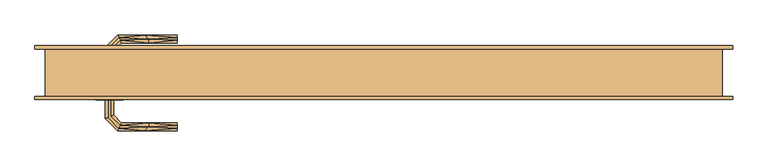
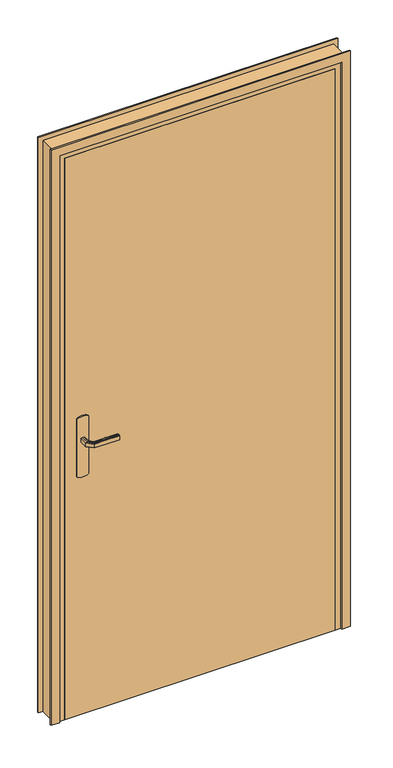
"""IFC4 building model written with IfcOpenShell, lengths in millimetres: door geometry, Portes - Int. Simple - PP (0.89m x 2.04m) (4)."""

from ifc_helpers import new_model, si_unit, point, frame, frame_2d, origin, origin_with_axes, place, context, project, spatial, polyline, circle_curve, trimmed, segment, composite_curve, outline, extrude, faceted_brep, source, transform, mapped, element, save


def door_3187a77a(model_context):
    return source(origin(), model_context, "Body", "SolidModel", [
        extrude(outline(composite_curve([segment(trimmed(circle_curve(frame_2d((1045.3589838, 95.0)), 40.0), [point((1080.0, 115.0))], [point((1080.0, 75.0))], False, "CARTESIAN"), True, "CONTINUOUS"), segment(polyline([(1080.0, 75.0), (870.0, 75.0)]), True, "CONTINUOUS"), segment(trimmed(circle_curve(frame_2d((904.6410162, 95.0)), 40.0), [point((870.0, 75.0))], [point((870.0, 115.0))], False, "CARTESIAN"), True, "CONTINUOUS"), segment(polyline([(870.0, 115.0), (1080.0, 115.0)]), True, "CONTINUOUS")], self_intersect=False)), frame((0.0, 40.0, 0.0), z_axis=(0.0, 1.0, 0.0), x_axis=(0.0, 0.0, 1.0)), (0.0, 0.0, 1.0), 5.0),
        extrude(outline(polyline([(35.0, 40.0), (965.0, 40.0), (965.0, 0.0), (35.0, 0.0), (35.0, 40.0)])), origin_with_axes(), (0.0, 0.0, 1.0), 2040.0),
        extrude(outline(polyline([(0.0, -15.0), (0.0, 15.0), (2060.0, 15.0), (2060.0, 985.0), (0.0, 985.0), (0.0, 1015.0), (2090.0, 1015.0), (2090.0, -15.0), (0.0, -15.0)])), frame((0.0, 70.0, 0.0), z_axis=(0.0, 1.0, 0.0), x_axis=(0.0, 0.0, 1.0)), (0.0, 0.0, 1.0), 5.0),
        extrude(outline(polyline([(0.0, -15.0), (0.0, 15.0), (2060.0, 15.0), (2060.0, 985.0), (0.0, 985.0), (0.0, 1015.0), (2090.0, 1015.0), (2090.0, -15.0), (0.0, -15.0)])), frame((0.0, -5.0, 0.0), z_axis=(0.0, 1.0, 0.0), x_axis=(0.0, 0.0, 1.0)), (0.0, 0.0, 1.0), 5.0),
        faceted_brep([(89.0, -5.0, 1007.0), (92.9747013, -5.0, 1007.7804408), (97.0252987, -5.0, 1007.7804408), (101.0, -5.0, 1007.0), (101.0, -5.0, 993.0), (97.0252987, -5.0, 992.2195592), (92.9747013, -5.0, 992.2195592), (89.0, -5.0, 993.0), (89.0, -32.6509507, 1007.0), (92.9747013, -31.0045755, 1007.7804408), (109.0235852, -47.0534593, 1007.7804408), (110.7013975, -43.002862, 1007.7804408), (97.0252987, -29.3267632, 1007.7804408), (101.0, -27.680388, 1007.0), (101.0, -27.680388, 993.0), (97.0252987, -29.3267632, 992.2195592), (110.7013975, -43.002862, 992.2195592), (109.0235852, -47.0534593, 992.2195592), (92.9747013, -31.0045755, 992.2195592), (89.0, -32.6509507, 993.0), (107.37721, -51.0281607, 1007.0), (112.3477727, -39.0281607, 1007.0), (112.3477727, -39.0281607, 993.0), (107.37721, -51.0281607, 993.0), (195.0186406, -51.0281607, 1007.0), (195.0186406, -51.0281607, 993.0), (195.0186406, -47.0534593, 992.2195592), (195.0186406, -43.002862, 992.2195592), (195.0186406, -39.0281607, 993.0), (195.0186406, -39.0281607, 1007.0), (195.0186406, -43.002862, 1007.7804408), (195.0186406, -47.0534593, 1007.7804408), (152.8600191, -45.0281607, 1007.8786868), (147.3076972, -51.0281607, 1007.0), (153.6832067, -39.0281607, 1007.0), (153.6832067, -39.0281607, 993.0), (152.8600189, -45.0281608, 992.1213132), (147.3077002, -51.0281607, 993.0)], [[[0, 1, 2, 3, 4, 5, 6, 7]], [[0, 8, 9, 1]], [[1, 9, 10, 11, 12, 2]], [[2, 12, 13, 3]], [[14, 4, 3, 13]], [[4, 14, 15, 5]], [[5, 15, 16, 17, 18, 6]], [[6, 18, 19, 7]], [[8, 0, 7, 19]], [[8, 20, 10, 9]], [[12, 11, 21, 13]], [[22, 14, 13, 21]], [[14, 22, 16, 15]], [[18, 17, 23, 19]], [[20, 8, 19, 23]], [[24, 25, 26, 27, 28, 29, 30, 31]], [[32, 33, 31]], [[33, 24, 31]], [[33, 10, 20]], [[11, 32, 34]], [[34, 21, 11]], [[29, 34, 30]], [[32, 31, 30]], [[32, 30, 34]], [[32, 10, 33]], [[11, 10, 32]], [[35, 22, 21, 34, 29, 28]], [[36, 35, 27]], [[26, 37, 36]], [[16, 22, 35]], [[27, 35, 28]], [[26, 25, 37]], [[37, 23, 17]], [[36, 37, 17]], [[36, 17, 16]], [[36, 16, 35]], [[27, 26, 36]], [[33, 20, 23, 37, 25, 24]]]),
        faceted_brep([(97.0252987, 45.0, 1007.7804408), (92.9747013, 45.0, 1007.7804408), (89.0, 45.0, 1007.0), (89.0, 45.0, 993.0), (92.9747013, 45.0, 992.2195592), (97.0252987, 45.0, 992.2195592), (101.0, 45.0, 993.0), (101.0, 45.0, 1007.0), (101.0, 67.4852045, 1007.0), (101.0, 67.4852045, 993.0), (97.0252987, 69.1315797, 1007.7804408), (110.8389062, 82.9451872, 1007.7804408), (109.1610938, 86.9957845, 1007.7804408), (92.9747013, 70.8093921, 1007.7804408), (89.0, 72.4557673, 1007.0), (89.0, 72.4557673, 993.0), (92.9747013, 70.8093921, 992.2195592), (109.1610938, 86.9957845, 992.2195592), (110.8389062, 82.9451872, 992.2195592), (97.0252987, 69.1315797, 992.2195592), (112.4852814, 78.9704859, 1007.0), (112.4852814, 78.9704859, 993.0), (107.5147186, 90.9704859, 1007.0), (107.5147186, 90.9704859, 993.0), (195.0457837, 78.9704859, 1007.0), (195.0457837, 78.9704859, 993.0), (195.0457837, 82.9451872, 992.2195592), (195.0457837, 86.9957845, 992.2195592), (195.0457837, 90.9704859, 993.0), (195.0457837, 90.9704859, 1007.0), (195.0457837, 86.9957845, 1007.7804408), (195.0457837, 82.9451872, 1007.7804408), (153.7655325, 78.9704859, 1007.0), (153.7655206, 78.9704859, 993.0), (152.9423449, 84.9704859, 1007.8786868), (147.4452058, 90.9704859, 1007.0), (147.4452043, 90.9704859, 993.0), (152.9423451, 84.9704858, 992.1213132)], [[[0, 1, 2, 3, 4, 5, 6, 7]], [[8, 7, 6, 9]], [[7, 8, 10, 0]], [[0, 10, 11, 12, 13, 1]], [[1, 13, 14, 2]], [[15, 3, 2, 14]], [[3, 15, 16, 4]], [[4, 16, 17, 18, 19, 5]], [[5, 19, 9, 6]], [[20, 8, 9, 21]], [[8, 20, 11, 10]], [[13, 12, 22, 14]], [[23, 15, 14, 22]], [[15, 23, 17, 16]], [[19, 18, 21, 9]], [[24, 25, 26, 27, 28, 29, 30, 31]], [[32, 20, 21, 33, 25, 24]], [[34, 32, 31]], [[30, 35, 34]], [[11, 20, 32]], [[31, 32, 24]], [[30, 29, 35]], [[35, 22, 12]], [[34, 35, 12]], [[34, 12, 11]], [[34, 11, 32]], [[31, 30, 34]], [[23, 22, 35, 29, 28, 36]], [[37, 36, 27]], [[36, 28, 27]], [[36, 17, 23]], [[18, 37, 33]], [[33, 21, 18]], [[25, 33, 26]], [[37, 27, 26]], [[37, 26, 33]], [[37, 17, 36]], [[18, 17, 37]]]),
        faceted_brep([(35.0, 0.0, 0.0), (0.0, 0.0, 0.0), (0.0, 70.0, 0.0), (50.0, 70.0, 0.0), (50.0, 40.0, 0.0), (35.0, 40.0, 0.0), (0.0, 70.0, 2075.0), (0.0, 0.0, 2075.0), (50.0, 70.0, 2025.0), (1000.0, 70.0, 2075.0), (1000.0, 70.0, 0.0), (950.0, 70.0, 0.0), (950.0, 70.0, 2025.0), (50.0, 40.0, 2025.0), (35.0, 40.0, 2040.0), (950.0, 40.0, 2025.0), (950.0, 40.0, 0.0), (965.0, 40.0, 0.0), (965.0, 40.0, 2040.0), (35.0, 0.0, 2040.0), (965.0, 0.0, 2040.0), (965.0, 0.0, 0.0), (1000.0, 0.0, 0.0), (1000.0, 0.0, 2075.0)], [[[0, 1, 2, 3, 4, 5]], [[6, 2, 1, 7]], [[8, 3, 2, 6, 9, 10, 11, 12]], [[13, 4, 3, 8]], [[14, 5, 4, 13, 15, 16, 17, 18]], [[19, 0, 5, 14]], [[7, 1, 0, 19, 20, 21, 22, 23]], [[10, 9, 23, 22]], [[10, 22, 21, 17, 16, 11]], [[16, 15, 12, 11]], [[21, 20, 18, 17]], [[9, 6, 7, 23]], [[15, 13, 8, 12]], [[20, 19, 14, 18]]]),
        extrude(outline(composite_curve([segment(trimmed(circle_curve(frame_2d((904.6410162, 95.0)), 40.0), [point((870.0, 75.0))], [point((870.0, 115.0))], False, "CARTESIAN"), True, "CONTINUOUS"), segment(polyline([(870.0, 115.0), (1080.0, 115.0)]), True, "CONTINUOUS"), segment(trimmed(circle_curve(frame_2d((1045.3589838, 95.0)), 40.0), [point((1080.0, 115.0))], [point((1080.0, 75.0))], False, "CARTESIAN"), True, "CONTINUOUS"), segment(polyline([(1080.0, 75.0), (870.0, 75.0)]), True, "CONTINUOUS")], self_intersect=False)), frame((0.0, -5.0, 0.0), z_axis=(0.0, 1.0, 0.0), x_axis=(0.0, 0.0, 1.0)), (0.0, 0.0, 1.0), 5.0),
    ])


if __name__ == "__main__":
    model = new_model("IFC4")
    model_context = context("Model", 3, world=origin())
    ifc_project = project(units=[si_unit("LENGTHUNIT", "METRE", prefix="MILLI")], contexts=[model_context])
    site = spatial("IfcSite", under=ifc_project)
    building = spatial("IfcBuilding", under=site)
    placement = place(None, origin())
    door_shape = door_3187a77a(model_context)
    element("IfcDoor", 1, ObjectType="Portes - Int. Simple - PP (0.89m x 2.04m) (4)", at=placement, inside=building, context=model_context, shape_type="MappedRepresentation", body=[
        mapped(door_shape, transform((0.0, 0.0, 0.0), x_axis=(1.0, 0.0, 0.0), y_axis=(0.0, 1.0, 0.0), z_axis=(0.0, 0.0, 1.0))),
    ])
    save(model, "model.ifc")
